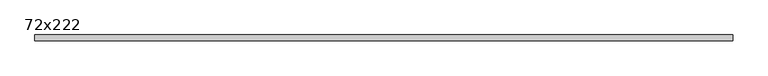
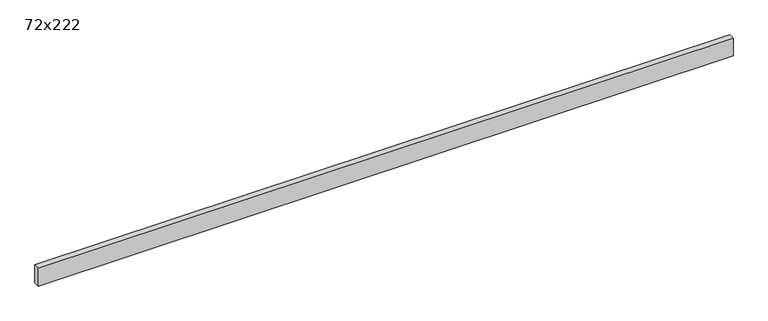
"""IFC4 building model written with IfcOpenShell, lengths in millimetres: beam geometry, C&L poutre bois : 72x222."""

import ifcopenshell
import ifcopenshell.guid

model = None  # the IFC model being written
_history = None  # IfcOwnerHistory: only IFC2X3 demands one
_inside = {}  # id of a spatial element -> (the spatial element, [elements in it])
_under = {}  # id of a project, library or spatial element -> (it, [spatial elements below it])
_declared = {}  # id of a project -> (the project, [libraries it declares])
_typed = {}  # id of a type object -> (the type object, [elements of that type])
_made_of = {}  # id of a material, layer set ... -> (it, [elements and type objects made of it])


def new_model(schema):
    """Start an empty IFC model of exactly this schema.

    Asked for "IFC4X3", IfcOpenShell would pick the latest addendum, in which some entities
    have other attributes; the version numbers below select the first issue.
    IFC2X3 requires an IfcOwnerHistory on every rooted entity: one is made here for all.
    """
    global model, _history
    if schema == "IFC4X3":
        model = ifcopenshell.file(schema_version=(4, 3, 0, 0))
    else:
        model = ifcopenshell.file(schema=schema)
    _inside.clear()
    _under.clear()
    _declared.clear()
    _typed.clear()
    _made_of.clear()
    _history = None
    if model.schema == "IFC2X3":
        org = make("IfcOrganization", Name="unknown")
        user = make(
            "IfcPersonAndOrganization",
            ThePerson=make("IfcPerson", FamilyName="unknown"),
            TheOrganization=org,
        )
        app = make(
            "IfcApplication",
            ApplicationDeveloper=org,
            Version="unknown",
            ApplicationFullName="unknown",
            ApplicationIdentifier="unknown",
        )
        _history = make(
            "IfcOwnerHistory",
            OwningUser=user,
            OwningApplication=app,
            ChangeAction="ADDED",
            CreationDate=0,
        )
    return model


def make(cls, **values):
    """One entity of the class cls with the attributes given. An attribute that is None is left unset."""
    return model.create_entity(
        cls, **{name: value for name, value in values.items() if value is not None}
    )


def rooted(cls, **values):
    """An entity with a GlobalId (a new one), such as an element, a storey or a relation."""
    return make(cls, GlobalId=ifcopenshell.guid.new(), OwnerHistory=_history, **values)


def si_unit(unit_type, name, prefix=None):
    """IfcSIUnit, for example si_unit("LENGTHUNIT", "METRE", prefix="MILLI")."""
    return make("IfcSIUnit", UnitType=unit_type, Prefix=prefix, Name=name)


def assignment(units):
    """IfcUnitAssignment: the units of a project."""
    return None if units is None else make("IfcUnitAssignment", Units=units)


def point(xyz):
    """IfcCartesianPoint."""
    return None if xyz is None else make("IfcCartesianPoint", Coordinates=xyz)


def direction(xyz):
    """IfcDirection."""
    return None if xyz is None else make("IfcDirection", DirectionRatios=xyz)


def frame(location, z_axis=None, x_axis=None):
    """IfcAxis2Placement3D, a coordinate frame: its origin and axes. An axis left out is left unset."""
    return make(
        "IfcAxis2Placement3D",
        Location=point(location),
        Axis=direction(z_axis),
        RefDirection=direction(x_axis),
    )


def origin():
    """The frame at (0, 0, 0) with its axes left unset."""
    return frame((0.0, 0.0, 0.0))


def place(relative_to, where):
    """IfcLocalPlacement: puts the frame where relative to a parent placement (None: the world)."""
    return make(
        "IfcLocalPlacement", PlacementRelTo=relative_to, RelativePlacement=where
    )


def context(
    kind, dimensions, precision=None, world=None, true_north=None, identifier=None
):
    """IfcGeometricRepresentationContext, for example the 3D "Model" context."""
    return make(
        "IfcGeometricRepresentationContext",
        ContextIdentifier=identifier,
        ContextType=kind,
        CoordinateSpaceDimension=dimensions,
        Precision=precision,
        WorldCoordinateSystem=world,
        TrueNorth=true_north,
    )


def project(units=None, contexts=None):
    """IfcProject with its units and contexts."""
    return rooted(
        "IfcProject",
        Name="project",
        RepresentationContexts=contexts,
        UnitsInContext=assignment(units),
    )


def spatial(cls, under=None, at=None, **own):
    """A site, building, storey or space (cls), placed at a placement, below another one or the project."""
    s = rooted(cls, ObjectPlacement=at, **own)
    if under is not None:
        _under.setdefault(under.id(), (under, []))[1].append(s)
    return s


def polyline(points):
    """IfcPolyline through the points."""
    return make("IfcPolyline", Points=[point(p) for p in points])


def outline(outer, holes=None, kind="AREA"):
    """IfcArbitraryClosedProfileDef: a profile drawn as a closed curve; with holes, ...WithVoids."""
    if holes is None:
        return make("IfcArbitraryClosedProfileDef", ProfileType=kind, OuterCurve=outer)
    return make(
        "IfcArbitraryProfileDefWithVoids",
        ProfileType=kind,
        OuterCurve=outer,
        InnerCurves=holes,
    )


def extrude(swept, where, along, depth):
    """IfcExtrudedAreaSolid: the profile swept, set in the frame where, extruded along a direction by depth."""
    return make(
        "IfcExtrudedAreaSolid",
        SweptArea=swept,
        Position=where,
        ExtrudedDirection=direction(along),
        Depth=depth,
    )


def shape(context_of_items, identifier, shape_type, items):
    """IfcShapeRepresentation: the items that make up one representation, for example the "Body"."""
    return make(
        "IfcShapeRepresentation",
        ContextOfItems=context_of_items,
        RepresentationIdentifier=identifier,
        RepresentationType=shape_type,
        Items=items,
    )


def source(mapping_origin, context_of_items, identifier, shape_type, items):
    """IfcRepresentationMap: a shape defined once, which mapped items show again and again."""
    return make(
        "IfcRepresentationMap",
        MappingOrigin=mapping_origin,
        MappedRepresentation=shape(context_of_items, identifier, shape_type, items),
    )


def transform(
    local_origin,
    x_axis=None,
    y_axis=None,
    z_axis=None,
    scale=None,
    scale2=None,
    scale3=None,
    uniform=True,
):
    """IfcCartesianTransformationOperator3D, or its non-uniform kind. x_axis, y_axis, z_axis: its Axis1, 2, 3."""
    if uniform:
        return make(
            "IfcCartesianTransformationOperator3D",
            Axis1=direction(x_axis),
            Axis2=direction(y_axis),
            LocalOrigin=point(local_origin),
            Scale=scale,
            Axis3=direction(z_axis),
        )
    return make(
        "IfcCartesianTransformationOperator3DnonUniform",
        Axis1=direction(x_axis),
        Axis2=direction(y_axis),
        LocalOrigin=point(local_origin),
        Scale=scale,
        Axis3=direction(z_axis),
        Scale2=scale2,
        Scale3=scale3,
    )


def mapped(mapping_source, mapping_target):
    """IfcMappedItem: shows the shape of a source again, moved by a transform."""
    return make(
        "IfcMappedItem", MappingSource=mapping_source, MappingTarget=mapping_target
    )


def made_of(thing, what):
    """Note that an element or type object is made of a material, layer set ...; save() writes the relation."""
    if what is not None:
        _made_of.setdefault(what.id(), (what, []))[1].append(thing)
    return thing


def element(
    cls,
    number,
    at=None,
    inside=None,
    cuts=None,
    type_object=None,
    material=None,
    context=None,
    identifier="Body",
    shape_type=None,
    held_by="IfcProductDefinitionShape",
    body=None,
    shapes=None,
    **own,
):
    """One element of the class cls, such as IfcWall. Its Tag is "e" and its number.

    at: its placement. inside: the storey or other place that contains it. cuts: it is an
    opening in that element (IfcRelVoidsElement). A single representation is given by context,
    identifier, shape_type and body (its items); several are given by shapes. held_by: the class
    of the entity that holds the representations. save() writes the other relations.
    """
    e = rooted(cls, Tag="e%d" % number, ObjectPlacement=at, **own)
    if body is not None:
        shapes = [shape(context, identifier, shape_type, body)]
    if shapes is not None:
        e.Representation = make(held_by, Representations=shapes)
    if inside is not None:
        _inside.setdefault(inside.id(), (inside, []))[1].append(e)
    if cuts is not None:
        rooted(
            "IfcRelVoidsElement", RelatingBuildingElement=cuts, RelatedOpeningElement=e
        )
    if type_object is not None:
        _typed.setdefault(type_object.id(), (type_object, []))[1].append(e)
    return made_of(e, material)


def aggregate(whole, parts):
    """IfcRelAggregates: a whole, such as a stair, and the parts it consists of."""
    return rooted("IfcRelAggregates", RelatingObject=whole, RelatedObjects=parts)


def save(model, path):
    """Write the relations noted so far, then the file.

    IfcRelAggregates (storeys below a building ...), IfcRelContainedInSpatialStructure (elements
    in a storey), IfcRelDefinesByType, IfcRelAssociatesMaterial and IfcRelDeclares: one each for
    every whole, place, type object, material and project.
    """
    for whole, parts in _under.values():
        aggregate(whole, parts)
    for where, things in _inside.values():
        rooted(
            "IfcRelContainedInSpatialStructure",
            RelatedElements=things,
            RelatingStructure=where,
        )
    for kind, things in _typed.values():
        rooted("IfcRelDefinesByType", RelatedObjects=things, RelatingType=kind)
    for what, things in _made_of.values():
        rooted("IfcRelAssociatesMaterial", RelatedObjects=things, RelatingMaterial=what)
    for by, libraries in _declared.values():
        rooted("IfcRelDeclares", RelatingContext=by, RelatedDefinitions=libraries)
    model.write(path)


def beam_72x222_e71cdacf(model_context):
    return source(origin(), model_context, "Body", "SweptSolid", [
        extrude(outline(polyline([(4192.5, -36.0), (-4192.5, -36.0), (-4192.5, 36.0), (4192.5, 36.0), (4192.5, -36.0)])), frame((0.0, 0.0, -112.5), z_axis=(0.0, 0.0, 1.0), x_axis=(1.0, 0.0, 0.0)), (0.0, 0.0, 1.0), 225.0),
    ])


if __name__ == "__main__":
    model = new_model("IFC4")
    model_context = context("Model", 3, world=origin())
    ifc_project = project(units=[si_unit("LENGTHUNIT", "METRE", prefix="MILLI")], contexts=[model_context])
    site = spatial("IfcSite", under=ifc_project)
    building = spatial("IfcBuilding", under=site)
    placement = place(None, origin())
    beam_72x222_shape = beam_72x222_e71cdacf(model_context)
    element("IfcBeam", 1, ObjectType="C&L poutre bois : 72x222", at=placement, inside=building, context=model_context, shape_type="MappedRepresentation", body=[
        mapped(beam_72x222_shape, transform((0.0, 0.0, 0.0), x_axis=(1.0, 0.0, 0.0), y_axis=(0.0, 1.0, 0.0), z_axis=(0.0, 0.0, 1.0))),
    ])
    save(model, "model.ifc")
